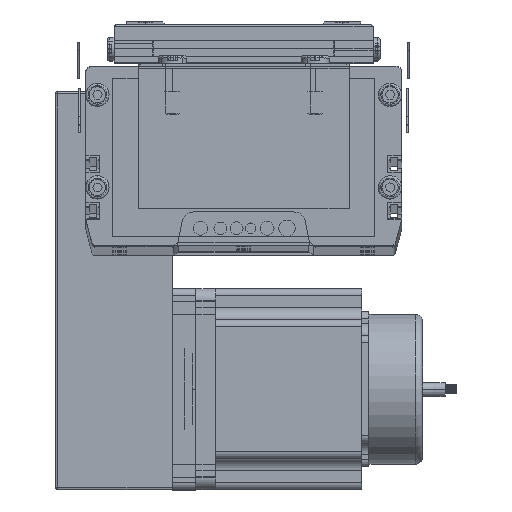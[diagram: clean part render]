
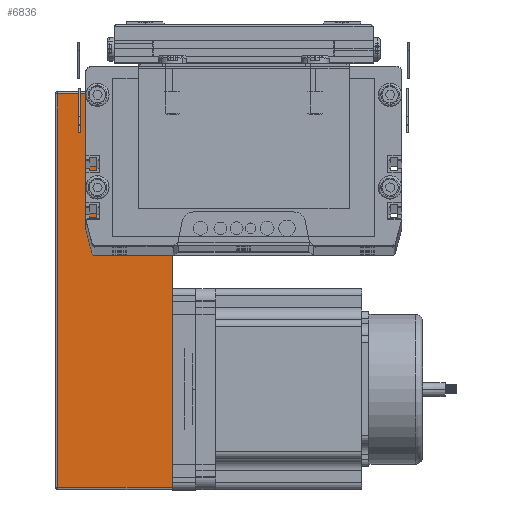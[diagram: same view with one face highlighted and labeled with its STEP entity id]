
A CAD part, top view. The second image highlights one B-rep face of the part: STEP entity #6836.
In plain terms, the highlighted planar face has unit normal (0, 0, 1) as drawn and (0, -1, 0) by its records, which use the part's own axes.
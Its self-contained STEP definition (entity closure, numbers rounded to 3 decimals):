
#6324 = VERTEX_POINT ( 'NONE', #72394 ) ;
#6336 = VERTEX_POINT ( 'NONE', #72482 ) ;
#6479 = EDGE_CURVE ( 'NONE', #6482, #6485, #73229, .T. ) ;
#6482 = VERTEX_POINT ( 'NONE', #73144 ) ;
#6485 = VERTEX_POINT ( 'NONE', #73235 ) ;
#6512 = VERTEX_POINT ( 'NONE', #73351 ) ;
#6624 = VERTEX_POINT ( 'NONE', #74306 ) ;
#6745 = ORIENTED_EDGE ( 'NONE', *, *, #6748, .T. ) ;
#6748 = EDGE_CURVE ( 'NONE', #6892, #6336, #74663, .T. ) ;
#6769 = EDGE_CURVE ( 'NONE', #6324, #6482, #74799, .T. ) ;
#6770 = EDGE_CURVE ( 'NONE', #6485, #6847, #74880, .T. ) ;
#6771 = ORIENTED_EDGE ( 'NONE', *, *, #6769, .T. ) ;
#6791 = ORIENTED_EDGE ( 'NONE', *, *, #6848, .T. ) ;
#6792 = ORIENTED_EDGE ( 'NONE', *, *, #6795, .T. ) ;
#6793 = EDGE_CURVE ( 'NONE', #6512, #6624, #74933, .T. ) ;
#6794 = ORIENTED_EDGE ( 'NONE', *, *, #6479, .T. ) ;
#6795 = EDGE_CURVE ( 'NONE', #6624, #6324, #74918, .T. ) ;
#6836 = ADVANCED_FACE ( 'NONE', ( #75067 ), #75059, .F. ) ;
#6837 = ORIENTED_EDGE ( 'NONE', *, *, #6841, .T. ) ;
#6841 = EDGE_CURVE ( 'NONE', #6336, #6512, #75038, .T. ) ;
#6845 = ORIENTED_EDGE ( 'NONE', *, *, #6770, .T. ) ;
#6847 = VERTEX_POINT ( 'NONE', #75045 ) ;
#6848 = EDGE_CURVE ( 'NONE', #6847, #6891, #75031, .T. ) ;
#6850 = ORIENTED_EDGE ( 'NONE', *, *, #6872, .T. ) ;
#6851 = ORIENTED_EDGE ( 'NONE', *, *, #6793, .T. ) ;
#6872 = EDGE_CURVE ( 'NONE', #6891, #6892, #75190, .T. ) ;
#6891 = VERTEX_POINT ( 'NONE', #75284 ) ;
#6892 = VERTEX_POINT ( 'NONE', #75279 ) ;
#6893 = EDGE_LOOP ( 'NONE', ( #6745, #6837, #6851, #6792, #6771, #6794, #6845, #6791, #6850 ) ) ;
#72394 = CARTESIAN_POINT ( 'NONE',  ( 80.482, 0., 0. ) ) ;
#72482 = CARTESIAN_POINT ( 'NONE',  ( 5.418, 0., 0. ) ) ;
#73144 = CARTESIAN_POINT ( 'NONE',  ( 85.9, 0., 0. ) ) ;
#73215 = DIRECTION ( 'NONE',  ( 1., 0., 0. ) ) ;
#73216 = VECTOR ( 'NONE', #73215, 1000. ) ;
#73227 = CARTESIAN_POINT ( 'NONE',  ( 0., 0., 0. ) ) ;
#73229 = LINE ( 'NONE', #73227, #73216 ) ;
#73235 = CARTESIAN_POINT ( 'NONE',  ( 169., 0., 0. ) ) ;
#73351 = CARTESIAN_POINT ( 'NONE',  ( 10.902, 0., 0. ) ) ;
#74306 = CARTESIAN_POINT ( 'NONE',  ( 74.998, 0., 0. ) ) ;
#74663 = LINE ( 'NONE', #74751, #74750 ) ;
#74749 = DIRECTION ( 'NONE',  ( 1., 0., 0. ) ) ;
#74750 = VECTOR ( 'NONE', #74749, 1000. ) ;
#74751 = CARTESIAN_POINT ( 'NONE',  ( 0., 0., 0. ) ) ;
#74771 = DIRECTION ( 'NONE',  ( 1., 0., 0. ) ) ;
#74773 = VECTOR ( 'NONE', #74771, 1000. ) ;
#74783 = CARTESIAN_POINT ( 'NONE',  ( 0., 0., 0. ) ) ;
#74799 = LINE ( 'NONE', #74783, #74773 ) ;
#74876 = DIRECTION ( 'NONE',  ( 0., 0., 1. ) ) ;
#74878 = VECTOR ( 'NONE', #74876, 1000. ) ;
#74879 = CARTESIAN_POINT ( 'NONE',  ( 169., 0., 50. ) ) ;
#74880 = LINE ( 'NONE', #74879, #74878 ) ;
#74914 = DIRECTION ( 'NONE',  ( 1., 0., 0. ) ) ;
#74916 = VECTOR ( 'NONE', #74914, 1000. ) ;
#74917 = CARTESIAN_POINT ( 'NONE',  ( 0., 0., 0. ) ) ;
#74918 = LINE ( 'NONE', #74917, #74916 ) ;
#74922 = DIRECTION ( 'NONE',  ( 1., 0., 0. ) ) ;
#74923 = VECTOR ( 'NONE', #74922, 1000. ) ;
#74931 = CARTESIAN_POINT ( 'NONE',  ( 0., 0., 0. ) ) ;
#74933 = LINE ( 'NONE', #74931, #74923 ) ;
#74945 = AXIS2_PLACEMENT_3D ( 'NONE', #75082, #75049, #75048 ) ;
#75029 = CARTESIAN_POINT ( 'NONE',  ( 0., 0., 49. ) ) ;
#75031 = LINE ( 'NONE', #75029, #75056 ) ;
#75033 = DIRECTION ( 'NONE',  ( 1., 0., 0. ) ) ;
#75034 = VECTOR ( 'NONE', #75033, 1000. ) ;
#75036 = CARTESIAN_POINT ( 'NONE',  ( 0., 0., 0. ) ) ;
#75038 = LINE ( 'NONE', #75036, #75034 ) ;
#75045 = CARTESIAN_POINT ( 'NONE',  ( 169., 0., 49. ) ) ;
#75048 = DIRECTION ( 'NONE',  ( 0., 0., 1. ) ) ;
#75049 = DIRECTION ( 'NONE',  ( 0., 1., 0. ) ) ;
#75056 = VECTOR ( 'NONE', #75145, 1000. ) ;
#75059 = PLANE ( 'NONE',  #74945 ) ;
#75067 = FACE_OUTER_BOUND ( 'NONE', #6893, .T. ) ;
#75082 = CARTESIAN_POINT ( 'NONE',  ( 0., 0., 50. ) ) ;
#75145 = DIRECTION ( 'NONE',  ( -1., 0., 0. ) ) ;
#75187 = DIRECTION ( 'NONE',  ( 0., 0., -1. ) ) ;
#75188 = VECTOR ( 'NONE', #75187, 1000. ) ;
#75189 = CARTESIAN_POINT ( 'NONE',  ( 1., 0., 50. ) ) ;
#75190 = LINE ( 'NONE', #75189, #75188 ) ;
#75279 = CARTESIAN_POINT ( 'NONE',  ( 1., 0., 0. ) ) ;
#75284 = CARTESIAN_POINT ( 'NONE',  ( 1., 0., 49. ) ) ;
